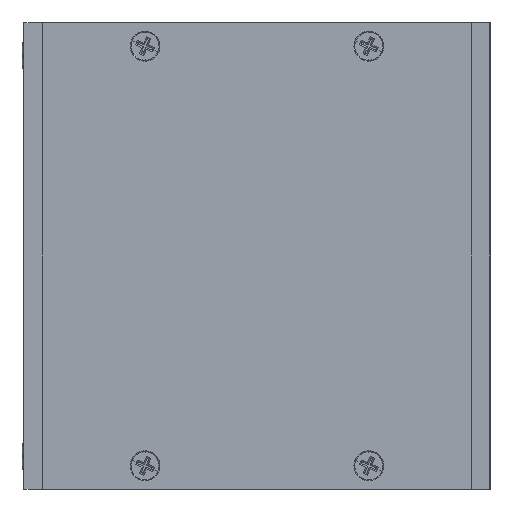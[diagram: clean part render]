
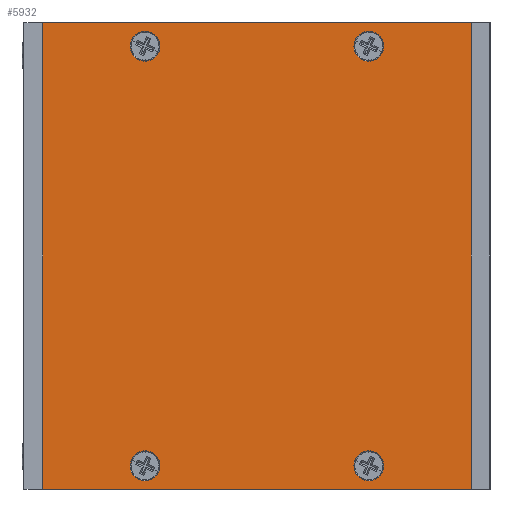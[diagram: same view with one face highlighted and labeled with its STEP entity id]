
A CAD part, left-side view. The second image highlights one B-rep face of the part: STEP entity #5932.
In plain terms, the highlighted planar face has unit normal (-1, 0, 0).
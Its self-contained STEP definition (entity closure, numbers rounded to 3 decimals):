
#5425=CARTESIAN_POINT('',(0.,12.,-24.1));
#5426=VERTEX_POINT('',#5425);
#5433=CARTESIAN_POINT('',(0.,12.,-20.9));
#5434=VERTEX_POINT('',#5433);
#5435=CARTESIAN_POINT('',(0.,12.,-22.5));
#5436=DIRECTION('',(0.,0.,-1.));
#5437=DIRECTION('',(-1.,0.,0.));
#5438=AXIS2_PLACEMENT_3D('',#5435,#5437,#5436);
#5439=CIRCLE('',#5438,1.6);
#5440=EDGE_CURVE('',#5426,#5434,#5439,.T.);
#5467=CARTESIAN_POINT('',(0.,-12.,-24.1));
#5468=VERTEX_POINT('',#5467);
#5475=CARTESIAN_POINT('',(0.,-12.,-20.9));
#5476=VERTEX_POINT('',#5475);
#5477=CARTESIAN_POINT('',(0.,-12.,-22.5));
#5478=DIRECTION('',(0.,0.,-1.));
#5479=DIRECTION('',(-1.,0.,0.));
#5480=AXIS2_PLACEMENT_3D('',#5477,#5479,#5478);
#5481=CIRCLE('',#5480,1.6);
#5482=EDGE_CURVE('',#5468,#5476,#5481,.T.);
#5509=CARTESIAN_POINT('',(0.,12.,20.9));
#5510=VERTEX_POINT('',#5509);
#5517=CARTESIAN_POINT('',(0.,12.,24.1));
#5518=VERTEX_POINT('',#5517);
#5519=CARTESIAN_POINT('',(0.,12.,22.5));
#5520=DIRECTION('',(0.,0.,-1.));
#5521=DIRECTION('',(-1.,0.,0.));
#5522=AXIS2_PLACEMENT_3D('',#5519,#5521,#5520);
#5523=CIRCLE('',#5522,1.6);
#5524=EDGE_CURVE('',#5510,#5518,#5523,.T.);
#5551=CARTESIAN_POINT('',(0.,-12.,20.9));
#5552=VERTEX_POINT('',#5551);
#5559=CARTESIAN_POINT('',(0.,-12.,24.1));
#5560=VERTEX_POINT('',#5559);
#5561=CARTESIAN_POINT('',(0.,-12.,22.5));
#5562=DIRECTION('',(0.,0.,-1.));
#5563=DIRECTION('',(-1.,0.,0.));
#5564=AXIS2_PLACEMENT_3D('',#5561,#5563,#5562);
#5565=CIRCLE('',#5564,1.6);
#5566=EDGE_CURVE('',#5552,#5560,#5565,.T.);
#5710=CARTESIAN_POINT('',(0.,-23.,-25.));
#5711=VERTEX_POINT('',#5710);
#5712=CARTESIAN_POINT('',(0.,23.,-25.));
#5713=VERTEX_POINT('',#5712);
#5714=CARTESIAN_POINT('',(0.,-23.,-25.));
#5715=DIRECTION('',(0.,1.,0.));
#5716=VECTOR('',#5715,46.);
#5717=LINE('',#5714,#5716);
#5718=EDGE_CURVE('',#5711,#5713,#5717,.T.);
#5750=CARTESIAN_POINT('',(0.,23.,25.));
#5751=VERTEX_POINT('',#5750);
#5752=CARTESIAN_POINT('',(0.,23.,-25.));
#5753=DIRECTION('',(0.,0.,1.));
#5754=VECTOR('',#5753,50.);
#5755=LINE('',#5752,#5754);
#5756=EDGE_CURVE('',#5713,#5751,#5755,.T.);
#5781=CARTESIAN_POINT('',(0.,-23.,25.));
#5782=VERTEX_POINT('',#5781);
#5783=CARTESIAN_POINT('',(0.,23.,25.));
#5784=DIRECTION('',(0.,-1.,0.));
#5785=VECTOR('',#5784,46.);
#5786=LINE('',#5783,#5785);
#5787=EDGE_CURVE('',#5751,#5782,#5786,.T.);
#5812=CARTESIAN_POINT('',(0.,-23.,25.));
#5813=DIRECTION('',(0.,0.,-1.));
#5814=VECTOR('',#5813,50.);
#5815=LINE('',#5812,#5814);
#5816=EDGE_CURVE('',#5782,#5711,#5815,.T.);
#5881=CARTESIAN_POINT('',(0.,0.,0.));
#5882=DIRECTION('',(0.,0.,1.));
#5883=DIRECTION('',(-1.,0.,0.));
#5884=AXIS2_PLACEMENT_3D('',#5881,#5883,#5882);
#5885=PLANE('',#5884);
#5886=ORIENTED_EDGE('',*,*,#5718,.F.);
#5887=ORIENTED_EDGE('',*,*,#5816,.F.);
#5888=ORIENTED_EDGE('',*,*,#5787,.F.);
#5889=ORIENTED_EDGE('',*,*,#5756,.F.);
#5890=EDGE_LOOP('',(#5886,#5887,#5888,#5889));
#5891=FACE_OUTER_BOUND('',#5890,.T.);
#5892=ORIENTED_EDGE('',*,*,#5440,.F.);
#5893=CARTESIAN_POINT('',(0.,12.,-22.5));
#5894=DIRECTION('',(0.,0.,-1.));
#5895=DIRECTION('',(1.,0.,-0.));
#5896=AXIS2_PLACEMENT_3D('',#5893,#5895,#5894);
#5897=CIRCLE('',#5896,1.6);
#5898=EDGE_CURVE('',#5426,#5434,#5897,.T.);
#5899=ORIENTED_EDGE('',*,*,#5898,.T.);
#5900=EDGE_LOOP('',(#5892,#5899));
#5901=FACE_BOUND('',#5900,.T.);
#5902=ORIENTED_EDGE('',*,*,#5482,.F.);
#5903=CARTESIAN_POINT('',(0.,-12.,-22.5));
#5904=DIRECTION('',(0.,0.,-1.));
#5905=DIRECTION('',(1.,0.,-0.));
#5906=AXIS2_PLACEMENT_3D('',#5903,#5905,#5904);
#5907=CIRCLE('',#5906,1.6);
#5908=EDGE_CURVE('',#5468,#5476,#5907,.T.);
#5909=ORIENTED_EDGE('',*,*,#5908,.T.);
#5910=EDGE_LOOP('',(#5902,#5909));
#5911=FACE_BOUND('',#5910,.T.);
#5912=ORIENTED_EDGE('',*,*,#5524,.F.);
#5913=CARTESIAN_POINT('',(0.,12.,22.5));
#5914=DIRECTION('',(0.,0.,-1.));
#5915=DIRECTION('',(1.,0.,-0.));
#5916=AXIS2_PLACEMENT_3D('',#5913,#5915,#5914);
#5917=CIRCLE('',#5916,1.6);
#5918=EDGE_CURVE('',#5510,#5518,#5917,.T.);
#5919=ORIENTED_EDGE('',*,*,#5918,.T.);
#5920=EDGE_LOOP('',(#5912,#5919));
#5921=FACE_BOUND('',#5920,.T.);
#5922=ORIENTED_EDGE('',*,*,#5566,.F.);
#5923=CARTESIAN_POINT('',(0.,-12.,22.5));
#5924=DIRECTION('',(0.,0.,-1.));
#5925=DIRECTION('',(1.,0.,-0.));
#5926=AXIS2_PLACEMENT_3D('',#5923,#5925,#5924);
#5927=CIRCLE('',#5926,1.6);
#5928=EDGE_CURVE('',#5552,#5560,#5927,.T.);
#5929=ORIENTED_EDGE('',*,*,#5928,.T.);
#5930=EDGE_LOOP('',(#5922,#5929));
#5931=FACE_BOUND('',#5930,.T.);
#5932=ADVANCED_FACE('',(#5891,#5901,#5911,#5921,#5931),#5885,.T.);
